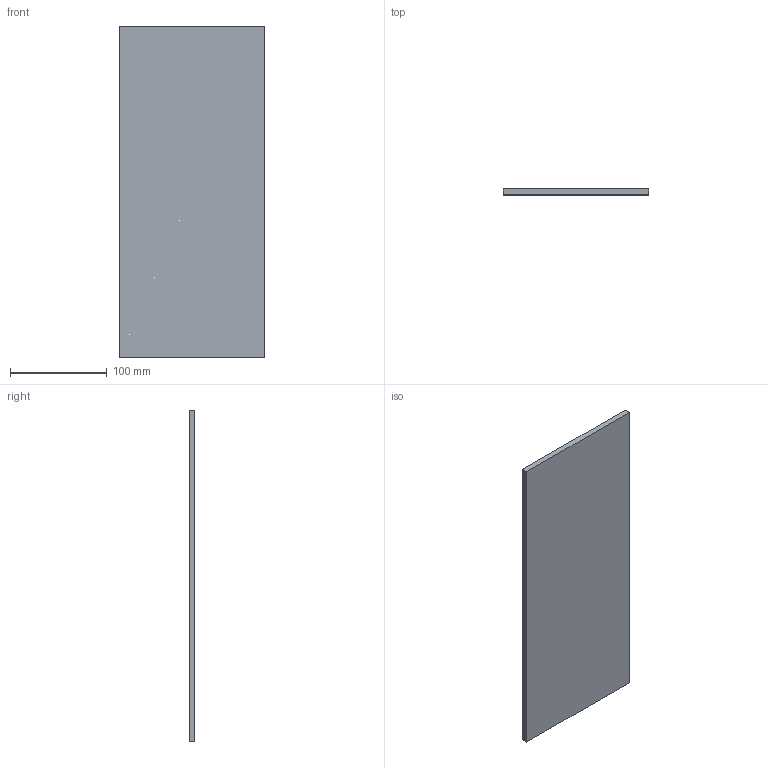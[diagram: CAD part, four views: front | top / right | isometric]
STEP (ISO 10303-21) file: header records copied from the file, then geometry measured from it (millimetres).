
FILE_DESCRIPTION(('Open CASCADE Model'),'2;1');
FILE_NAME('Open CASCADE Shape Model','2026-10-16T18:03:45',('Author'),( 'Open CASCADE'),'Open CASCADE STEP processor 7.8','Open CASCADE 7.8' ,'Unknown');
FILE_SCHEMA(('AUTOMOTIVE_DESIGN { 1 0 10303 214 1 1 1 1 }'));
Length unit declared in the file: millimetre
Products named in the file (1): Open CASCADE STEP translator 7.8 31
Bounding box: 150 x 6 x 342 mm (x, y, z)
Volume: 307800 mm3; surface area: 108504 mm2
Topology: 1 solids, 1 shells, 6 faces, 12 edges, 8 vertices
Faces by surface type: plane 6
Entity records: 322 total; most frequent: CARTESIAN_POINT 51, DIRECTION 50, LINE 36, VECTOR 36, ORIENTED_EDGE 24, PCURVE 24, DEFINITIONAL_REPRESENTATION 24, EDGE_CURVE 12
